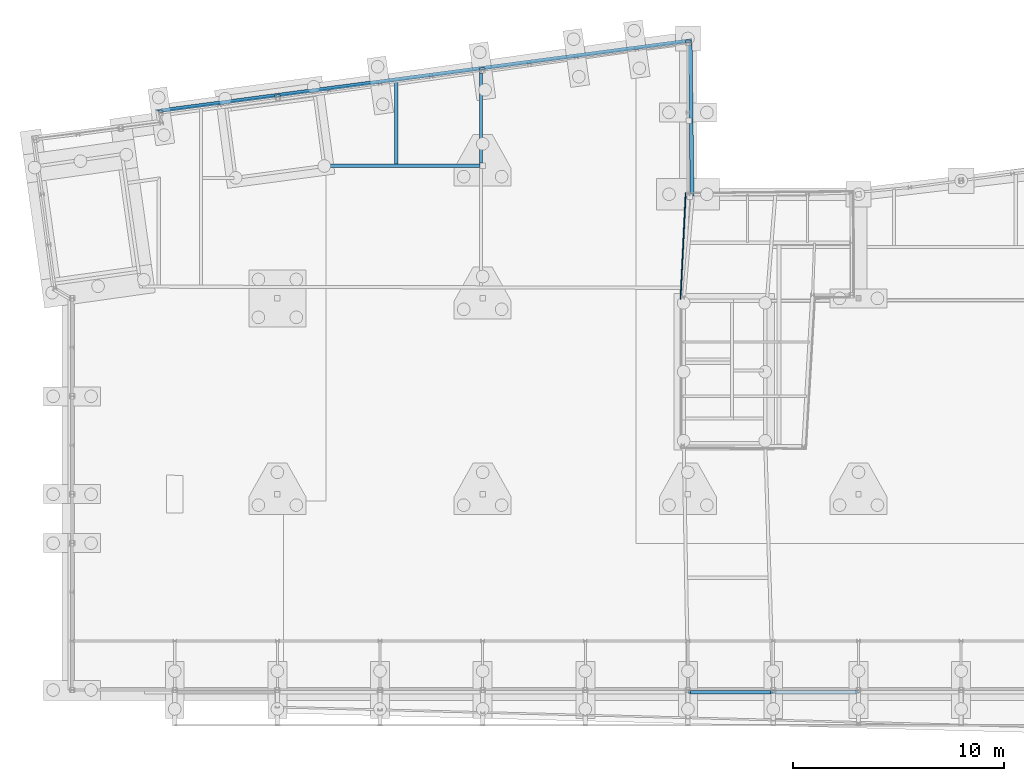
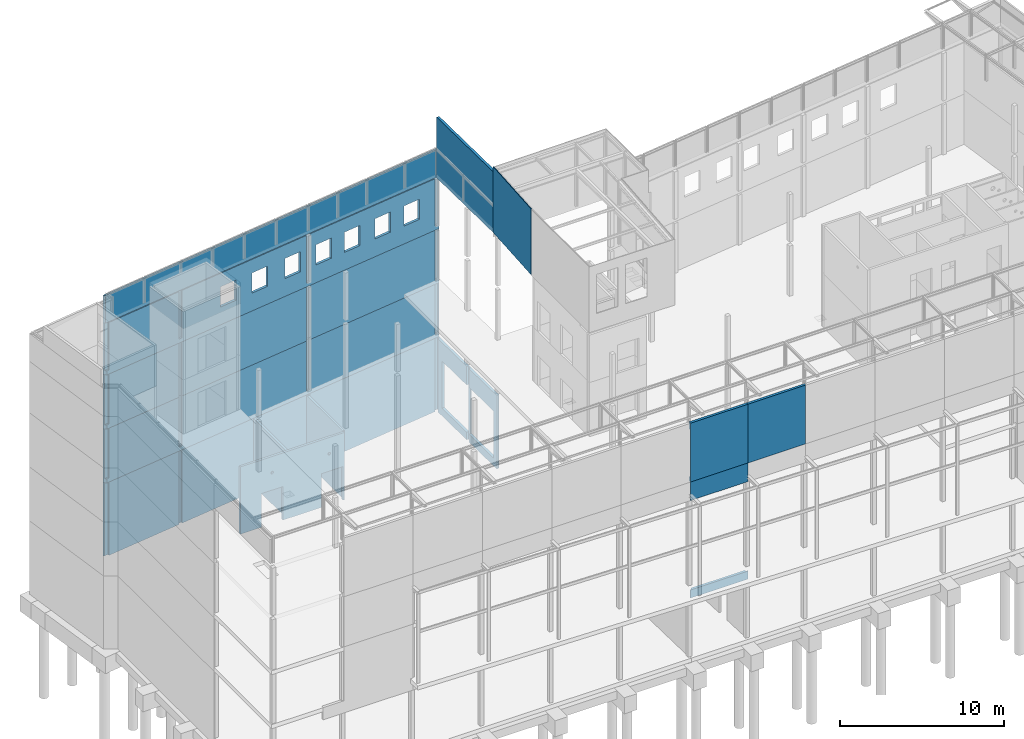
# One storey, part 72 of 82: 15 walls.
"""IFC2X3 building model written with IfcOpenShell, lengths in millimetres."""

from ifc_helpers import new_model, si_unit, frame, frame_2d, origin_with_axes, place, context, subcontext, project, spatial, polyline, rectangle, circle, outline, extrude, boolean, clip, halfspace, material, layer, layer_set, layer_usage, type_object, element, save


model = new_model("IFC2X3")

# Units and contexts
model_context = context("Model", 3, precision=1e-05, world=origin_with_axes())
body_context = subcontext(model_context, "Body", "Model", "MODEL_VIEW")
ifc_project = project(units=[si_unit("LENGTHUNIT", "METRE", prefix="MILLI"), si_unit("AREAUNIT", "SQUARE_METRE"), si_unit("VOLUMEUNIT", "CUBIC_METRE"), si_unit("MASSUNIT", "GRAM", prefix="KILO"), si_unit("TIMEUNIT", "SECOND"), si_unit("PLANEANGLEUNIT", "RADIAN"), si_unit("SOLIDANGLEUNIT", "STERADIAN"), si_unit("THERMODYNAMICTEMPERATUREUNIT", "DEGREE_CELSIUS"), si_unit("LUMINOUSINTENSITYUNIT", "LUMEN")], contexts=[model_context])

# Site, building, storey
site_placement = place(None, origin_with_axes())
site = spatial("IfcSite", under=ifc_project, at=site_placement, Name="Undefined", CompositionType="ELEMENT")
building_placement = place(site_placement, origin_with_axes())
building = spatial("IfcBuilding", under=site, at=building_placement, Name="Undefined", CompositionType="ELEMENT")
storey_placement = place(building_placement, origin_with_axes())
storey = spatial("IfcBuildingStorey", under=building, at=storey_placement, Name="Undefined", CompositionType="ELEMENT", Elevation=0.0)

# Walls
ifc_material_1 = material(Name="STEEL/Steel_Undefined")
wall_type_1 = type_object("IfcWallType", Name="4900*50", PredefinedType="NOTDEFINED")
wall_1_placement = place(storey_placement, frame((29144.9688056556, 23626.5175870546, 17179.9999999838), z_axis=(0.0, 0.0, 1.0), x_axis=(-0.0485784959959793, -0.998819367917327, 0.0)))
element("IfcWall", 1, at=wall_1_placement, inside=storey, type_object=wall_type_1, material=ifc_material_1, Name="HABILLAGE", ObjectType="4900*50", context=body_context, shape_type="Clipping", body=[
    clip(clip(extrude(rectangle(XDim=5166.432575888, YDim=50.0, at=frame_2d((0.0, 2545.86590553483), x_axis=(0.0, -1.0))), frame((0.0, 0.0, 0.0), z_axis=(0.0, 0.0, 1.0), x_axis=(-2.77555756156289e-17, -1.0, 0.0)), (0.0, 0.0, 1.0), 4900.0), halfspace(frame((5068.79728353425, -25.0000000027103, 2450.0), z_axis=(0.99970482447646, 0.0242953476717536, 0.0), x_axis=(0.0, 0.0, 1.0)), False)), halfspace(frame((47.0841811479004, 25.0000000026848, 2450.0), z_axis=(-0.728015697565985, 0.685560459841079, 0.0), x_axis=(0.0, 0.0, 1.0)), False)),
])
ifc_material_2 = material(Name="CONCRETE/C25/30")
wall_type_2 = type_object("IfcWallType", Name="4515*180", PredefinedType="NOTDEFINED")
wall_2_placement = place(storey_placement, frame((29357.6036684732, 30945.659319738, 16860.0), z_axis=(0.0, 0.0, 1.0), x_axis=(0.0117836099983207, -0.999930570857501, 0.0)))
element("IfcWall", 2, at=wall_2_placement, inside=storey, type_object=wall_type_2, material=ifc_material_2, Name="PANNEAU_FACADE", ObjectType="4515*180", context=body_context, shape_type="CSG", body=[
    boolean("DIFFERENCE", boolean("DIFFERENCE", extrude(rectangle(XDim=7585.18398106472, YDim=180.0, at=frame_2d((0.0, 3700.79612755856), x_axis=(0.0, -1.0))), frame((0.0, 0.0, 0.0), z_axis=(0.0, 0.0, 1.0), x_axis=(-2.77555756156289e-17, -1.0, 0.0)), (0.0, 0.0, 1.0), 4515.0), extrude(outline(polyline([(5.17284206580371e-08, 4.49290382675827e-10), (180.012496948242, -2.5465851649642e-10), (177.686965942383, 197.339630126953), (-2.30053949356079, 195.21858215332), (5.17284206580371e-08, 4.49290382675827e-10)])), frame((195.232142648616, -90.0000000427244, 2071.0), z_axis=(0.0, 0.0, 1.0), x_axis=(0.0117836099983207, 0.999930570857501, 0.0)), (0.0, 0.0, 1.0), 2444.0)), halfspace(frame((-4.00905264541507e-08, 90.0000000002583, 2257.5), z_axis=(-0.794650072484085, -0.607067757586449, 0.0), x_axis=(0.0, 0.0, 1.0)), False)),
])
wall_type_3 = type_object("IfcWallType", Name="2071*115", PredefinedType="NOTDEFINED")
wall_3_placement = place(storey_placement, frame((3975.74448747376, 27515.9890702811, 16860.0), z_axis=(0.0, 0.0, 1.0), x_axis=(0.991347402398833, 0.13126434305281, 0.0)))
element("IfcWall", 3, at=wall_3_placement, inside=storey, type_object=wall_type_3, material=ifc_material_2, Name="PANNEAU_FACADE", ObjectType="2071*115", context=body_context, shape_type="Clipping", body=[
    clip(clip(extrude(rectangle(XDim=26286.358422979, YDim=115.0, at=frame_2d((0.0, 12830.8849649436), x_axis=(0.0, -1.0))), frame((0.0, 0.0, 0.0), z_axis=(0.0, 0.0, 1.0), x_axis=(-2.77555756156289e-17, -1.0, 0.0)), (0.0, 0.0, 1.0), 2071.0), halfspace(frame((25701.7878600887, 57.5000000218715, 2257.5), z_axis=(-0.507693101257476, 0.861537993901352, 0.0), x_axis=(0.0, 0.0, 1.0)), True)), halfspace(frame((3.31783667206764e-09, 57.5000000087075, 1035.5), z_axis=(-0.706752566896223, -0.707460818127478, 0.0), x_axis=(0.0, 0.0, 1.0)), False)),
])
ifc_layer = layer(ifc_material_2, 180.0)
ifc_layer_set = layer_set([ifc_layer], Name="Wall: Insitu CONCRETE/C25/30")
ifc_layer_usage_1 = layer_usage(ifc_layer_set, "AXIS2", "POSITIVE", -90.0)
wall_type_4 = type_object("IfcWallType", Name="4370*180", PredefinedType="NOTDEFINED")
wall_4_placement = place(storey_placement, frame((33299.9999999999, -104.999999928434, 13030.0), z_axis=(0.0, 0.0, 1.0), x_axis=(-1.0, 0.0, 0.0)))
element("IfcWallStandardCase", 4, at=wall_4_placement, inside=storey, type_object=wall_type_4, material=ifc_layer_usage_1, Name="PANNEAU_FACADE", ObjectType="4370*180", context=body_context, shape_type="CSG", body=[
    boolean("DIFFERENCE", boolean("DIFFERENCE", extrude(rectangle(XDim=4049.999985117, YDim=180.0, at=frame_2d((0.0, 2024.9999925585), x_axis=(0.0, -1.0))), frame((0.0, 0.0, 0.0), z_axis=(0.0, 0.0, 1.0), x_axis=(-2.77555756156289e-17, -1.0, 0.0)), (0.0, 0.0, 1.0), 4370.0), extrude(rectangle(XDim=265.0, YDim=265.0, at=frame_2d((5.17284206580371e-08, 4.49290382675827e-10), x_axis=(1.0, 0.0))), frame((-1.48822146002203e-05, -104.999999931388, 3830.0), z_axis=(0.0, -6.50000002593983e-08, -0.999999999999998), x_axis=(1.0, 0.0, 0.0)), (0.0, 0.0, 1.0), 3530.0)), extrude(rectangle(XDim=265.0, YDim=265.0, at=frame_2d((5.17284206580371e-08, 4.49290382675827e-10), x_axis=(1.0, 0.0))), frame((4050.00000000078, -104.999999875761, 3830.0), z_axis=(0.0, -6.50000002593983e-08, -0.999999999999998), x_axis=(1.0, 0.0, 0.0)), (0.0, 0.0, 1.0), 3530.0)),
])
ifc_layer_usage_2 = layer_usage(ifc_layer_set, "AXIS2", "POSITIVE", -90.0)
wall_5_placement = place(storey_placement, frame((37349.9999851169, -104.99999993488, 13030.0), z_axis=(0.0, 0.0, 1.0), x_axis=(-1.0, 0.0, 0.0)))
element("IfcWallStandardCase", 5, at=wall_5_placement, inside=storey, type_object=wall_type_4, material=ifc_layer_usage_2, Name="PANNEAU_FACADE", ObjectType="4370*180", context=body_context, shape_type="CSG", body=[
    boolean("DIFFERENCE", boolean("DIFFERENCE", extrude(rectangle(XDim=4049.999985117, YDim=180.0, at=frame_2d((0.0, 2024.9999925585), x_axis=(0.0, -1.0))), frame((0.0, 0.0, 0.0), z_axis=(0.0, 0.0, 1.0), x_axis=(-2.77555756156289e-17, -1.0, 0.0)), (0.0, 0.0, 1.0), 4370.0), extrude(rectangle(XDim=265.0, YDim=265.0, at=frame_2d((5.17284206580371e-08, 4.49290382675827e-10), x_axis=(1.0, 0.0))), frame((-1.48822146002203e-05, -104.999999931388, 3830.0), z_axis=(0.0, -6.50000002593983e-08, -0.999999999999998), x_axis=(1.0, 0.0, 0.0)), (0.0, 0.0, 1.0), 3530.0)), extrude(rectangle(XDim=265.0, YDim=265.0, at=frame_2d((5.17284206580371e-08, 4.49290382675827e-10), x_axis=(1.0, 0.0))), frame((4050.00000000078, -104.999999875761, 3830.0), z_axis=(0.0, -6.50000002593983e-08, -0.999999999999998), x_axis=(1.0, 0.0, 0.0)), (0.0, 0.0, 1.0), 3530.0)),
])
wall_type_5 = type_object("IfcWallType", Name="3830*180", PredefinedType="NOTDEFINED")
wall_6_placement = place(storey_placement, frame((3980.01050829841, 27483.7702703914, 13030.0), z_axis=(0.0, 0.0, 1.0), x_axis=(0.991347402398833, 0.13126434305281, 0.0)))
solid_1 = boolean("DIFFERENCE", boolean("DIFFERENCE", boolean("DIFFERENCE", boolean("DIFFERENCE", boolean("DIFFERENCE", boolean("DIFFERENCE", boolean("DIFFERENCE", boolean("DIFFERENCE", extrude(rectangle(XDim=26143.6688935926, YDim=180.0, at=frame_2d((0.0, 12890.5194009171), x_axis=(0.0, -1.0))), frame((0.0, 0.0, 0.0), z_axis=(0.0, 0.0, 1.0), x_axis=(-2.77555756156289e-17, -1.0, 0.0)), (0.0, 0.0, 1.0), 3830.0), extrude(rectangle(XDim=265.0, YDim=265.0, at=frame_2d((5.17284206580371e-08, 4.49290382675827e-10), x_axis=(1.0, 0.0))), frame((25483.8778993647, -88.5227292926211, 3830.00000009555), z_axis=(0.0, -6.50000002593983e-08, -0.999999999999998), x_axis=(0.119573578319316, 0.992825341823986, 0.0)), (0.0, 0.0, 1.0), 3530.0)), extrude(rectangle(XDim=260.0, YDim=260.0, at=frame_2d((5.17284206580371e-08, 4.49290382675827e-10), x_axis=(1.0, 0.0))), frame((15623.1774676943, -104.996631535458, 3830.00000005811), z_axis=(0.0, -6.50000002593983e-08, -0.999999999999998), x_axis=(0.0, 1.0, 0.0)), (0.0, 0.0, 1.0), 3530.0)), extrude(rectangle(XDim=265.0, YDim=265.0, at=frame_2d((5.17284206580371e-08, 4.49290382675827e-10), x_axis=(1.0, 0.0))), frame((5822.51538357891, -104.995279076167, 3830.00000001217), z_axis=(0.0, -6.50000002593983e-08, -0.999999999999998), x_axis=(0.0, 1.0, 0.0)), (0.0, 0.0, 1.0), 3530.0)), extrude(rectangle(XDim=265.0, YDim=265.0, at=frame_2d((5.17284206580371e-08, 4.49290382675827e-10), x_axis=(1.0, 0.0))), frame((195.194872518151, -104.865289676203, 3829.9999999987), z_axis=(0.0, -6.50000002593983e-08, -0.999999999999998), x_axis=(0.0, 1.0, 0.0)), (0.0, 0.0, 1.0), 3530.0)), extrude(outline(polyline([(5.17284206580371e-08, 4.49290382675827e-10), (1500.0, 3.78349795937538e-10), (1500.0, 1199.99999998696), (0.0, 1199.99999998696), (5.17284206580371e-08, 4.49290382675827e-10)])), frame((10077.9109845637, -99.9999999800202, 2820.00048828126), z_axis=(0.0, 1.0, 0.0), x_axis=(0.0, -6.50000002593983e-08, -0.999999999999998)), (0.0, 0.0, 1.0), 200.0)), extrude(outline(polyline([(5.17284206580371e-08, 4.49290382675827e-10), (1500.0, 3.78349795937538e-10), (1500.0, 1199.99999998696), (0.0, 1199.99999998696), (5.17284206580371e-08, 4.49290382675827e-10)])), frame((12507.740751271, -99.9999999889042, 2820.00048828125), z_axis=(0.0, 1.0, 0.0), x_axis=(0.0, -6.50000002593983e-08, -0.999999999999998)), (0.0, 0.0, 1.0), 200.0)), extrude(outline(polyline([(5.17284206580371e-08, 4.49290382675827e-10), (1500.0, 3.78349795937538e-10), (1500.0, 1199.99999998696), (0.0, 1199.99999998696), (5.17284206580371e-08, 4.49290382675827e-10)])), frame((15034.9314126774, -99.9999999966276, 2820.00048828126), z_axis=(0.0, 1.0, 0.0), x_axis=(0.0, -6.50000002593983e-08, -0.999999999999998)), (0.0, 0.0, 1.0), 200.0)), extrude(outline(polyline([(5.17284206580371e-08, 4.49290382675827e-10), (1500.0, 3.78349795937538e-10), (1500.0, 1199.99999998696), (0.0, 1199.99999998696), (5.17284206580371e-08, 4.49290382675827e-10)])), frame((17407.3531937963, -100.000000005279, 2820.00048828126), z_axis=(0.0, 1.0, 0.0), x_axis=(0.0, -6.50000002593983e-08, -0.999999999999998)), (0.0, 0.0, 1.0), 200.0))
element("IfcWall", 6, at=wall_6_placement, inside=storey, type_object=wall_type_5, material=ifc_material_2, Name="PANNEAU_FACADE", ObjectType="3830*180", context=body_context, shape_type="CSG", body=[
    boolean("DIFFERENCE", boolean("DIFFERENCE", boolean("DIFFERENCE", boolean("DIFFERENCE", boolean("DIFFERENCE", solid_1, extrude(outline(polyline([(5.17284206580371e-08, 4.49290382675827e-10), (1500.0, 3.78349795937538e-10), (1500.0, 1199.99999998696), (0.0, 1199.99999998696), (5.17284206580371e-08, 4.49290382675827e-10)])), frame((19599.6699169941, -100.000000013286, 2820.00048828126), z_axis=(0.0, 1.0, 0.0), x_axis=(0.0, -6.50000002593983e-08, -0.999999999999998)), (0.0, 0.0, 1.0), 200.0)), extrude(outline(polyline([(5.17284206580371e-08, 4.49290382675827e-10), (1500.0, 3.78349795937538e-10), (1500.0, 1199.99999998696), (0.0, 1199.99999998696), (5.17284206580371e-08, 4.49290382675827e-10)])), frame((21937.8523541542, -100.000000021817, 2820.00048828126), z_axis=(0.0, 1.0, 0.0), x_axis=(0.0, -6.50000002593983e-08, -0.999999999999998)), (0.0, 0.0, 1.0), 200.0)), extrude(outline(polyline([(5.17284206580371e-08, 4.49290382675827e-10), (1500.0, 3.78349795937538e-10), (1500.0, 1199.99999998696), (0.0, 1199.99999998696), (5.17284206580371e-08, 4.49290382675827e-10)])), frame((24176.5546332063, -100.000000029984, 2820.00048828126), z_axis=(0.0, 1.0, 0.0), x_axis=(0.0, -6.50000002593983e-08, -0.999999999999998)), (0.0, 0.0, 1.0), 200.0)), halfspace(frame((25701.7879310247, 90.0000000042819, 299.99999996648), z_axis=(0.992825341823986, -0.119573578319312, 0.0), x_axis=(0.0, -6.50000002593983e-08, -0.999999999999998)), False)), halfspace(frame((7.09393789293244e-05, 90.0000000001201, 1915.0), z_axis=(-0.706752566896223, -0.707460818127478, 0.0), x_axis=(0.0, 0.0, 1.0)), False)),
])
ifc_layer_usage_3 = layer_usage(ifc_layer_set, "AXIS2", "POSITIVE", -90.0)
wall_type_6 = type_object("IfcWallType", Name="1380*180", PredefinedType="NOTDEFINED")
wall_7_placement = place(storey_placement, frame((33299.9999999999, -104.999999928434, 11650.0), z_axis=(0.0, 0.0, 1.0), x_axis=(-1.0, 0.0, 0.0)))
element("IfcWallStandardCase", 7, at=wall_7_placement, inside=storey, type_object=wall_type_6, material=ifc_layer_usage_3, Name="PANNEAU_FACADE", ObjectType="1380*180", context=body_context, shape_type="CSG", body=[
    boolean("DIFFERENCE", boolean("DIFFERENCE", extrude(rectangle(XDim=4049.999985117, YDim=180.0, at=frame_2d((0.0, 2024.9999925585), x_axis=(0.0, -1.0))), frame((0.0, 0.0, 0.0), z_axis=(0.0, 0.0, 1.0), x_axis=(-2.77555756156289e-17, -1.0, 0.0)), (0.0, 0.0, 1.0), 1380.0), extrude(rectangle(XDim=265.0, YDim=265.0, at=frame_2d((5.17284206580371e-08, 4.49290382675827e-10), x_axis=(1.0, 0.0))), frame((4050.00000000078, -104.999999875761, 1380.0), z_axis=(0.0, -6.50000002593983e-08, -0.999999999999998), x_axis=(1.0, 0.0, 0.0)), (0.0, 0.0, 1.0), 7730.0)), extrude(rectangle(XDim=265.0, YDim=265.0, at=frame_2d((5.17284206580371e-08, 4.49290382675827e-10), x_axis=(1.0, 0.0))), frame((7.71251507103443e-10, -104.999999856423, 1380.0), z_axis=(0.0, -6.50000002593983e-08, -0.999999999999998), x_axis=(1.0, 0.0, 0.0)), (0.0, 0.0, 1.0), 7730.0)),
])
wall_type_7 = type_object("IfcWallType", Name="4025*180", PredefinedType="NOTDEFINED")
wall_8_placement = place(storey_placement, frame((3980.01050834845, 27483.7702703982, 9005.0), z_axis=(0.0, 0.0, 1.0), x_axis=(0.991347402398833, 0.13126434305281, 0.0)))
element("IfcWall", 8, at=wall_8_placement, inside=storey, type_object=wall_type_7, material=ifc_material_2, Name="PANNEAU_FACADE", ObjectType="4025*180", context=body_context, shape_type="CSG", body=[
    boolean("DIFFERENCE", boolean("DIFFERENCE", boolean("DIFFERENCE", boolean("DIFFERENCE", boolean("DIFFERENCE", boolean("DIFFERENCE", extrude(rectangle(XDim=26143.6688935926, YDim=180.0, at=frame_2d((0.0, 12890.5194009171), x_axis=(0.0, -1.0))), frame((0.0, 0.0, 0.0), z_axis=(0.0, 0.0, 1.0), x_axis=(-2.77555756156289e-17, -1.0, 0.0)), (0.0, 0.0, 1.0), 4025.0), extrude(rectangle(XDim=265.0, YDim=265.0, at=frame_2d((5.17284206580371e-08, 4.49290382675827e-10), x_axis=(1.0, 0.0))), frame((25483.8778992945, -88.5227292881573, 4025.00000009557), z_axis=(0.0, -6.50000002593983e-08, -0.999999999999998), x_axis=(0.119573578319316, 0.992825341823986, 0.0)), (0.0, 0.0, 1.0), 3725.0)), extrude(rectangle(XDim=260.0, YDim=260.0, at=frame_2d((5.17284206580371e-08, 4.49290382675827e-10), x_axis=(1.0, 0.0))), frame((15623.1774676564, -104.996631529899, 4025.00000007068), z_axis=(0.0, -6.50000002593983e-08, -0.999999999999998), x_axis=(0.0, 1.0, 0.0)), (0.0, 0.0, 1.0), 4025.0)), extrude(rectangle(XDim=265.0, YDim=265.0, at=frame_2d((5.17284206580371e-08, 4.49290382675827e-10), x_axis=(1.0, 0.0))), frame((5822.51538354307, -104.995279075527, 4025.00000001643), z_axis=(0.0, -6.50000002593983e-08, -0.999999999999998), x_axis=(0.0, 1.0, 0.0)), (0.0, 0.0, 1.0), 4025.0)), extrude(rectangle(XDim=265.0, YDim=265.0, at=frame_2d((5.17284206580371e-08, 4.49290382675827e-10), x_axis=(1.0, 0.0))), frame((195.194872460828, -104.865289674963, 4024.9999999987), z_axis=(0.0, -6.50000002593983e-08, -0.999999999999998), x_axis=(0.0, 1.0, 0.0)), (0.0, 0.0, 1.0), 3725.0)), halfspace(frame((25701.7879310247, 90.0000000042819, 299.99999996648), z_axis=(0.992825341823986, -0.119573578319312, 0.0), x_axis=(0.0, -6.50000002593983e-08, -0.999999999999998)), False)), halfspace(frame((7.08888774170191e-05, 90.0000000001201, 2012.5), z_axis=(-0.706752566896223, -0.707460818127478, 0.0), x_axis=(0.0, 0.0, 1.0)), False)),
])
ifc_layer_usage_4 = layer_usage(ifc_layer_set, "AXIS2", "POSITIVE", -90.0)
wall_type_8 = type_object("IfcWallType", Name="600*180", PredefinedType="NOTDEFINED")
wall_9_placement = place(storey_placement, frame((33300.0000640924, -104.999999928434, 4400.0), z_axis=(0.0, 0.0, 1.0), x_axis=(-1.0, 0.0, 0.0)))
element("IfcWallStandardCase", 9, at=wall_9_placement, inside=storey, type_object=wall_type_8, material=ifc_layer_usage_4, Name="PANNEAU_FACADE", ObjectType="600*180", context=body_context, shape_type="CSG", body=[
    boolean("DIFFERENCE", boolean("DIFFERENCE", extrude(rectangle(XDim=4049.99998420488, YDim=180.0, at=frame_2d((0.0, 2024.9999925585), x_axis=(0.0, -1.0))), frame((0.0, 0.0, 0.0), z_axis=(0.0, 0.0, 1.0), x_axis=(-2.77555756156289e-17, -1.0, 0.0)), (0.0, 0.0, 1.0), 600.0), extrude(rectangle(XDim=265.0, YDim=265.0, at=frame_2d((5.17284206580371e-08, 4.49290382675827e-10), x_axis=(1.0, 0.0))), frame((4050.00006462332, -105.000000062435, 11800.0), z_axis=(0.0, -6.50000002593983e-08, -0.999999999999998), x_axis=(1.0, 0.0, 0.0)), (0.0, 0.0, 1.0), 16650.0)), extrude(rectangle(XDim=265.0, YDim=265.0, at=frame_2d((5.17284206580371e-08, 4.49290382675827e-10), x_axis=(1.0, 0.0))), frame((6.45597028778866e-05, -105.000000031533, 11800.0), z_axis=(0.0, -6.50000002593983e-08, -0.999999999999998), x_axis=(1.0, 0.0, 0.0)), (0.0, 0.0, 1.0), 16650.0)),
])
wall_type_9 = type_object("IfcWallType", Name="4005*180", PredefinedType="NOTDEFINED")
wall_10_placement = place(storey_placement, frame((3980.01050834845, 27483.7702703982, 5000.0), z_axis=(0.0, 0.0, 1.0), x_axis=(0.991347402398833, 0.13126434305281, 0.0)))
element("IfcWall", 10, at=wall_10_placement, inside=storey, type_object=wall_type_9, material=ifc_material_2, Name="PANNEAU_FACADE", ObjectType="4005*180", context=body_context, shape_type="CSG", body=[
    boolean("DIFFERENCE", boolean("DIFFERENCE", boolean("DIFFERENCE", boolean("DIFFERENCE", boolean("DIFFERENCE", boolean("DIFFERENCE", extrude(rectangle(XDim=26143.6688935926, YDim=180.0, at=frame_2d((0.0, 12890.5194009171), x_axis=(0.0, -1.0))), frame((0.0, 0.0, 0.0), z_axis=(0.0, 0.0, 1.0), x_axis=(-2.77555756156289e-17, -1.0, 0.0)), (0.0, 0.0, 1.0), 4005.0), extrude(rectangle(XDim=265.0, YDim=265.0, at=frame_2d((5.17284206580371e-08, 4.49290382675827e-10), x_axis=(1.0, 0.0))), frame((25483.877899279, -88.5227292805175, 4005.00000010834), z_axis=(0.0, -6.50000002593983e-08, -0.999999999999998), x_axis=(0.119573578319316, 0.992825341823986, 0.0)), (0.0, 0.0, 1.0), 3705.0)), extrude(rectangle(XDim=260.0, YDim=260.0, at=frame_2d((5.17284206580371e-08, 4.49290382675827e-10), x_axis=(1.0, 0.0))), frame((15623.1774676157, -104.996631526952, 4305.00000007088), z_axis=(0.0, -6.50000002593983e-08, -0.999999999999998), x_axis=(0.0, 1.0, 0.0)), (0.0, 0.0, 1.0), 4005.0)), extrude(rectangle(XDim=265.0, YDim=265.0, at=frame_2d((5.17284206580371e-08, 4.49290382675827e-10), x_axis=(1.0, 0.0))), frame((5822.51538351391, -104.995279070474, 4305.00000002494), z_axis=(0.0, -6.50000002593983e-08, -0.999999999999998), x_axis=(0.0, 1.0, 0.0)), (0.0, 0.0, 1.0), 4005.0)), extrude(rectangle(XDim=265.0, YDim=265.0, at=frame_2d((5.17284206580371e-08, 4.49290382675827e-10), x_axis=(1.0, 0.0))), frame((195.194872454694, -104.865289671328, 4004.9999999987), z_axis=(0.0, -6.50000002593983e-08, -0.999999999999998), x_axis=(0.0, 1.0, 0.0)), (0.0, 0.0, 1.0), 3705.0)), halfspace(frame((25701.7879310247, 90.0000000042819, 299.99999996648), z_axis=(0.992825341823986, -0.119573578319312, 0.0), x_axis=(0.0, -6.50000002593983e-08, -0.999999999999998)), False)), halfspace(frame((7.08888774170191e-05, 90.0000000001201, 2002.5), z_axis=(-0.706752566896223, -0.707460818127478, 0.0), x_axis=(0.0, 0.0, 1.0)), False)),
])
ifc_material_3 = material(Name="CONCRETE/BRIQUE")
wall_type_10 = type_object("IfcWallType", Name="5000*150", PredefinedType="NOTDEFINED")
wall_11_placement = place(storey_placement, frame((19350.0401699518, 24899.9194653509, 0.0), z_axis=(0.0, 0.0, 1.0), x_axis=(-0.999999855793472, -0.000537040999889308, 0.0)))
element("IfcWall", 11, at=wall_11_placement, inside=storey, type_object=wall_type_10, material=ifc_material_3, Name="MACONNERIE_15CM", ObjectType="5000*150", context=body_context, shape_type="CSG", body=[
    boolean("DIFFERENCE", boolean("DIFFERENCE", boolean("DIFFERENCE", boolean("DIFFERENCE", boolean("DIFFERENCE", extrude(rectangle(XDim=7339.65313330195, YDim=150.0, at=frame_2d((0.0, 3649.86673380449), x_axis=(0.0, -1.0))), frame((0.0, 0.0, 0.0), z_axis=(0.0, 0.0, 1.0), x_axis=(-2.77555756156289e-17, -1.0, 0.0)), (0.0, 0.0, 1.0), 5000.0), extrude(circle(Radius=100.0, at=frame_2d((5.17284206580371e-08, 4.49290382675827e-10), x_axis=(1.0, 0.0))), frame((1060.08048950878, -85.0000000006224, 3799.99953460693), z_axis=(0.0, 1.0, 0.0), x_axis=(-1.0, 0.0, 0.0)), (0.0, 0.0, 1.0), 170.0)), extrude(circle(Radius=100.0, at=frame_2d((5.17284206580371e-08, 4.49290382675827e-10), x_axis=(1.0, 0.0))), frame((5060.07991271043, -85.0000000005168, 3799.99953460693), z_axis=(0.0, 1.0, 0.0), x_axis=(-1.0, 0.0, 0.0)), (0.0, 0.0, 1.0), 170.0)), extrude(outline(polyline([(5.17284206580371e-08, 4.49290382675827e-10), (2500.0, -4.18367562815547e-10), (2500.0, 1499.99999999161), (0.0, 1499.99999999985), (5.17284206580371e-08, 4.49290382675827e-10)])), frame((1599.33897960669, -85.0000000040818, 2500.0), z_axis=(0.0, 1.0, 0.0), x_axis=(0.0, -6.50000002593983e-08, -0.999999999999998)), (0.0, 0.0, 1.0), 170.0)), extrude(outline(polyline([(5.17284206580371e-08, 4.49290382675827e-10), (2500.0, -4.18367562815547e-10), (2500.0, 1499.99999999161), (0.0, 1499.99999999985), (5.17284206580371e-08, 4.49290382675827e-10)])), frame((5815.84756636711, -85.0000000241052, 2500.0), z_axis=(0.0, 1.0, 0.0), x_axis=(0.0, -6.50000002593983e-08, -0.999999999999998)), (0.0, 0.0, 1.0), 170.0)), halfspace(frame((7297.50197525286, -9.82981873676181e-09, 1500.0), z_axis=(-0.991286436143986, -0.131723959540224, 0.0), x_axis=(-0.131723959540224, 0.991286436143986, 0.0)), True)),
])
wall_12_placement = place(storey_placement, frame((15395.2438140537, 28910.7674162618, 0.0), z_axis=(0.0, 0.0, 1.0), x_axis=(-2.77555756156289e-17, -1.0, 0.0)))
element("IfcWall", 12, at=wall_12_placement, inside=storey, type_object=wall_type_10, material=ifc_material_3, Name="MACONNERIE_15CM", ObjectType="5000*150", context=body_context, shape_type="Clipping", body=[
    clip(extrude(rectangle(XDim=3953.61684681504, YDim=150.0, at=frame_2d((0.0, 1961.16340478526), x_axis=(0.0, -1.0))), frame((0.0, 0.0, 0.0), z_axis=(0.0, 0.0, 1.0), x_axis=(-2.77555756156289e-17, -1.0, 0.0)), (0.0, 0.0, 1.0), 5000.0), halfspace(frame((6.2912487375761, -4.63132892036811e-08, 1500.0), z_axis=(0.991347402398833, 0.13126434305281, 0.0), x_axis=(0.131264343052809, -0.991347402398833, 0.0)), True)),
])
wall_13_placement = place(storey_placement, frame((19424.9999999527, 29503.4559748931, 0.0), z_axis=(0.0, 0.0, 1.0), x_axis=(-2.77555756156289e-17, -1.0, 0.0)))
solid_2 = boolean("DIFFERENCE", boolean("DIFFERENCE", boolean("DIFFERENCE", boolean("DIFFERENCE", boolean("DIFFERENCE", extrude(rectangle(XDim=7317.46180809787, YDim=150.0, at=frame_2d((0.0, 3638.7710711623), x_axis=(0.0, -1.0))), frame((4603.53650954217, -74.9598300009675, 0.0), z_axis=(0.0, 0.0, 1.0), x_axis=(-0.999999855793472, -0.000537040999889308, 0.0)), (0.0, 0.0, 1.0), 5000.0), extrude(outline(polyline([(5.17284206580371e-08, 4.49290382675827e-10), (14150.0, 3.21233528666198e-09), (14150.0, 1500.00000000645), (0.0, 1499.99999999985), (5.17284206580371e-08, 4.49290382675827e-10)])), frame((4839.39538625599, -1674.17237424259, 2500.00000000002), z_axis=(-0.999999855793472, -0.000537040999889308, 0.0), x_axis=(0.0, 0.0, 1.0)), (0.0, 0.0, 1.0), 170.0)), extrude(outline(polyline([(5.17284206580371e-08, 4.49290382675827e-10), (14150.0, 3.21233528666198e-09), (14150.0, 1500.00000000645), (0.0, 1499.99999999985), (5.17284206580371e-08, 4.49290382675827e-10)])), frame((4841.65982423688, -5890.68035296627, 2500.00000000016), z_axis=(-0.999999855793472, -0.000537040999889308, 0.0), x_axis=(0.0, 0.0, 1.0)), (0.0, 0.0, 1.0), 170.0)), extrude(circle(Radius=100.0, at=frame_2d((5.17284206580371e-08, 4.49290382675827e-10), x_axis=(1.0, 0.0))), frame((4519.10582848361, -1135.085815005, 3799.99953460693), z_axis=(0.999999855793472, 0.000537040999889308, 0.0), x_axis=(-0.000537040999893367, 0.999999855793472, 0.0)), (0.0, 0.0, 1.0), 170.0)), extrude(circle(Radius=100.0, at=frame_2d((5.17284206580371e-08, 4.49290382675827e-10), x_axis=(1.0, 0.0))), frame((4521.25399216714, -5135.08466137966, 3799.99953460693), z_axis=(0.999999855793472, 0.000537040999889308, 0.0), x_axis=(-0.000537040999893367, 0.999999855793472, 0.0)), (0.0, 0.0, 1.0), 170.0)), halfspace(frame((4607.45556728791, -7372.46075286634, 1500.0), z_axis=(-0.132256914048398, 0.991215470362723, 0.0), x_axis=(0.991215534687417, 0.132256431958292, 0.0)), True))
element("IfcWall", 13, at=wall_13_placement, inside=storey, type_object=wall_type_10, material=ifc_material_3, Name="MACONNERIE_15CM", ObjectType="5000*150", context=body_context, shape_type="CSG", body=[
    boolean("DIFFERENCE", boolean("DIFFERENCE", boolean("DIFFERENCE", boolean("DIFFERENCE", extrude(rectangle(XDim=4538.05634539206, YDim=150.0, at=frame_2d((0.0, 2334.42782730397), x_axis=(0.0, -1.0))), frame((0.0, 0.0, 0.0), z_axis=(0.0, 0.0, 1.0), x_axis=(-2.77555756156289e-17, -1.0, 0.0)), (0.0, 0.0, 1.0), 5000.0), extrude(rectangle(XDim=260.0, YDim=260.0, at=frame_2d((5.17284206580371e-08, 4.49290382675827e-10), x_axis=(1.0, 0.0))), frame((73.0077157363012, 56.7892219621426, 5000.00000005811), z_axis=(0.0, -6.50000002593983e-08, -0.999999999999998), x_axis=(-0.991347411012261, -0.131264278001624, 0.0)), (0.0, 0.0, 1.0), 5450.0)), solid_2), extrude(rectangle(XDim=260.0, YDim=260.0, at=frame_2d((5.17284206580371e-08, 4.49290382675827e-10), x_axis=(1.0, 0.0))), frame((4603.45685990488, 75.0000000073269, 16200.0), z_axis=(0.0, -6.50000002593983e-08, -0.999999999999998), x_axis=(-2.77555756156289e-17, -1.0, 0.0)), (0.0, 0.0, 1.0), 16650.0)), halfspace(frame((65.3996546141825, -4.7162757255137e-08, 1500.0), z_axis=(0.991347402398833, 0.13126434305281, 0.0), x_axis=(0.131264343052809, -0.991347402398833, 0.0)), True)),
])
wall_type_11 = type_object("IfcWallType", Name="5450*180", PredefinedType="NOTDEFINED")
wall_14_placement = place(storey_placement, frame((3980.01050834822, 27483.7702703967, -450.0), z_axis=(0.0, 0.0, 1.0), x_axis=(0.991347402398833, 0.13126434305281, 0.0)))
element("IfcWall", 14, at=wall_14_placement, inside=storey, type_object=wall_type_11, material=ifc_material_2, Name="PANNEAU_FACADE", ObjectType="5450*180", context=body_context, shape_type="CSG", body=[
    boolean("DIFFERENCE", boolean("DIFFERENCE", boolean("DIFFERENCE", boolean("DIFFERENCE", boolean("DIFFERENCE", boolean("DIFFERENCE", extrude(rectangle(XDim=26431.3779019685, YDim=180.0, at=frame_2d((0.0, 12845.194207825), x_axis=(0.0, -1.0))), frame((0.0, 0.0, 0.0), z_axis=(0.0, 0.0, 1.0), x_axis=(-2.77555756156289e-17, -1.0, 0.0)), (0.0, 0.0, 1.0), 5450.0), extrude(rectangle(XDim=265.0, YDim=265.0, at=frame_2d((5.17284206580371e-08, 4.49290382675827e-10), x_axis=(1.0, 0.0))), frame((25483.8778992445, -88.5227292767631, 5450.00000009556), z_axis=(0.0, -6.50000002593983e-08, -0.999999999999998), x_axis=(0.119573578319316, 0.992825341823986, 0.0)), (0.0, 0.0, 1.0), 5450.0)), extrude(rectangle(XDim=260.0, YDim=260.0, at=frame_2d((5.17284206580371e-08, 4.49290382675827e-10), x_axis=(1.0, 0.0))), frame((15623.1774675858, -104.996631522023, 5450.00000005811), z_axis=(0.0, -6.50000002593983e-08, -0.999999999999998), x_axis=(0.0, 1.0, 0.0)), (0.0, 0.0, 1.0), 5450.0)), extrude(rectangle(XDim=265.0, YDim=265.0, at=frame_2d((5.17284206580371e-08, 4.49290382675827e-10), x_axis=(1.0, 0.0))), frame((5822.51538349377, -104.995279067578, 5450.00000001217), z_axis=(0.0, -6.50000002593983e-08, -0.999999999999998), x_axis=(0.0, 1.0, 0.0)), (0.0, 0.0, 1.0), 5450.0)), extrude(rectangle(XDim=265.0, YDim=265.0, at=frame_2d((5.17284206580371e-08, 4.49290382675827e-10), x_axis=(1.0, 0.0))), frame((195.194872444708, -104.865289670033, 16650.0), z_axis=(0.0, -6.50000002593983e-08, -0.999999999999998), x_axis=(0.0, 1.0, 0.0)), (0.0, 0.0, 1.0), 16650.0)), halfspace(frame((25701.7879305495, 90.0000000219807, 2725.0), z_axis=(-0.663485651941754, 0.748189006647, 0.0), x_axis=(0.0, 0.0, 1.0)), True)), halfspace(frame((7.08888710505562e-05, 90.0000000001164, 2725.0), z_axis=(-0.706752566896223, -0.707460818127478, 0.0), x_axis=(0.0, 0.0, 1.0)), False)),
])
wall_15_placement = place(storey_placement, frame((29357.6036694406, 30945.6592016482, -450.0), z_axis=(0.0, 0.0, 1.0), x_axis=(0.0117836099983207, -0.999930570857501, 0.0)))
solid_3 = boolean("DIFFERENCE", boolean("DIFFERENCE", boolean("DIFFERENCE", boolean("DIFFERENCE", boolean("DIFFERENCE", extrude(rectangle(XDim=25510.2078923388, YDim=180.0, at=frame_2d((0.0, 12755.1039461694), x_axis=(0.0, -1.0))), frame((3162.60891482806, -25416.6247658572, 16650.0), z_axis=(0.0, 0.0, 1.0), x_axis=(0.992825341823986, 0.119573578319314, 0.0)), (0.0, 0.0, 1.0), 5450.0), extrude(rectangle(XDim=260.0, YDim=260.0, at=frame_2d((5.17284206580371e-08, 4.49290382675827e-10), x_axis=(1.0, 0.0))), frame((1398.73299689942, -9892.98343326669, 5450.00000005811), z_axis=(0.0, 0.0, 1.0), x_axis=(-0.989731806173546, 0.142936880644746, 0.0)), (0.0, 0.0, 1.0), 11200.0)), extrude(rectangle(XDim=265.0, YDim=265.0, at=frame_2d((5.17284206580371e-08, 4.49290382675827e-10), x_axis=(1.0, 0.0))), frame((2570.63188943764, -19623.3292787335, 5450.00000001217), z_axis=(0.0, 0.0, 1.0), x_axis=(-0.989731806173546, 0.142936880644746, 0.0)), (0.0, 0.0, 1.0), 11200.0)), extrude(rectangle(XDim=265.0, YDim=265.0, at=frame_2d((5.17284206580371e-08, 4.49290382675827e-10), x_axis=(1.0, 0.0))), frame((3243.38168252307, -25210.2912319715, 5449.9999999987), z_axis=(0.0, 0.0, 1.0), x_axis=(-0.989731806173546, 0.142936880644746, 0.0)), (0.0, 0.0, 1.0), 11200.0)), halfspace(frame((-0.000118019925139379, 89.9999998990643, 2725.0), z_axis=(-0.663485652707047, -0.748189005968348, 0.0), x_axis=(0.0, 0.0, 1.0)), True)), halfspace(frame((3073.25462565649, -25427.3863173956, 2725.0), z_axis=(0.786893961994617, -0.617088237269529, 0.0), x_axis=(0.0, 0.0, 1.0)), False))
solid_4 = boolean("DIFFERENCE", extrude(outline(polyline([(5.17284206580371e-08, 4.49290382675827e-10), (3500.0, 1.81898940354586e-10), (3500.0, 2950.00000002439), (0.0, 2950.00000002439), (5.17284206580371e-08, 4.49290382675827e-10)])), frame((3775.23634018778, -100.000000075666, 4070.0), z_axis=(0.0, 1.0, 0.0), x_axis=(0.0, -6.50000002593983e-08, -0.999999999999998)), (0.0, 0.0, 1.0), 200.0), solid_3)
element("IfcWall", 15, at=wall_15_placement, inside=storey, type_object=wall_type_11, material=ifc_material_2, Name="PANNEAU_FACADE", ObjectType="5450*180", context=body_context, shape_type="CSG", body=[
    boolean("DIFFERENCE", boolean("DIFFERENCE", boolean("DIFFERENCE", boolean("DIFFERENCE", boolean("DIFFERENCE", boolean("DIFFERENCE", boolean("DIFFERENCE", extrude(rectangle(XDim=7757.61013004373, YDim=180.0, at=frame_2d((0.0, 3752.45380850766), x_axis=(0.0, -1.0))), frame((0.0, 0.0, 0.0), z_axis=(0.0, 0.0, 1.0), x_axis=(-2.77555756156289e-17, -1.0, 0.0)), (0.0, 0.0, 1.0), 5450.0), extrude(rectangle(XDim=265.0, YDim=265.0, at=frame_2d((5.17284206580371e-08, 4.49290382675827e-10), x_axis=(1.0, 0.0))), frame((7508.42390064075, -104.999996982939, 5450.0), z_axis=(0.0, -6.50000002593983e-08, -0.999999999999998), x_axis=(-1.0, 0.0, 0.0)), (0.0, 0.0, 1.0), 5450.0)), extrude(rectangle(XDim=265.0, YDim=265.0, at=frame_2d((5.17284206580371e-08, 4.49290382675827e-10), x_axis=(1.0, 0.0))), frame((203.298053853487, -104.999999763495, 5450.00000009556), z_axis=(0.0, -6.50000002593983e-08, -0.999999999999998), x_axis=(-1.0, 0.0, 0.0)), (0.0, 0.0, 1.0), 5450.0)), extrude(rectangle(XDim=265.0, YDim=265.0, at=frame_2d((5.17284206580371e-08, 4.49290382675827e-10), x_axis=(1.0, 0.0))), frame((3907.15733138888, -104.995036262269, 16650.0), z_axis=(0.0, -6.50000002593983e-08, -0.999999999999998), x_axis=(-1.0, 0.0, 0.0)), (0.0, 0.0, 1.0), 16650.0)), extrude(outline(polyline([(5.17284206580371e-08, 4.49290382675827e-10), (3500.0, 1.81898940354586e-10), (3500.0, 2950.00000002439), (0.0, 2950.00000002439), (5.17284206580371e-08, 4.49290382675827e-10)])), frame((6989.06878271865, -100.000000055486, 4070.0), z_axis=(0.0, 1.0, 0.0), x_axis=(0.0, -6.50000002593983e-08, -0.999999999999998)), (0.0, 0.0, 1.0), 200.0)), solid_4), halfspace(frame((7313.44780760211, 90.0000000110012, 2725.0), z_axis=(-0.707224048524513, -0.706989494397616, 0.0), x_axis=(0.0, 0.0, 1.0)), True)), halfspace(frame((-0.000118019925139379, 89.9999998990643, 2725.0), z_axis=(-0.663485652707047, -0.748189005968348, 0.0), x_axis=(0.0, 0.0, 1.0)), False)),
])

save(model, "model.ifc")
